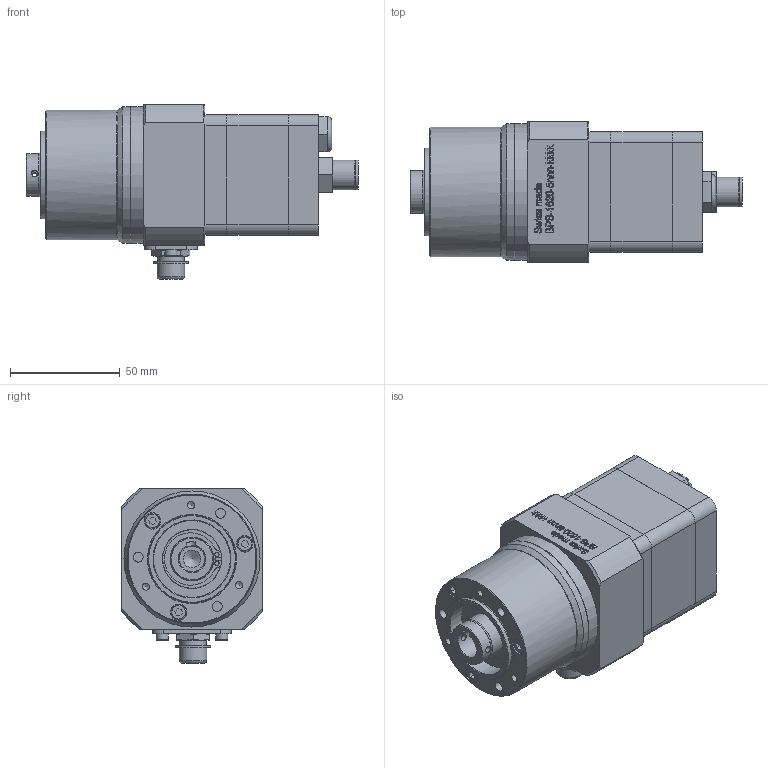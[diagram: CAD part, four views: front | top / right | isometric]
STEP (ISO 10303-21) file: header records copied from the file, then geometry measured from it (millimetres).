
FILE_DESCRIPTION(/* description */ (''),/* implementation_level */ '2;1');
FILE_NAME(/* name */ 'G:\02 CAD Dateien\02 - CAD Schrittmotoren BPS\01 - Standart Produkte\BPS 1620-23\Verkaufsunterlagen\STEP ab JULI 2017\500-16-356 Schrittmotor BPS-1620-S5-MX-0027.stp',/* time_stamp */ '2017-12-20T07:17:05+01:00',/* author */ ('RSc'),/* organization */ (''),/* preprocessor_version */ 'ST-DEVELOPER v16.1',/* originating_system */ 'Autodesk Inventor 2016',/* authorisation */ '');
FILE_SCHEMA (('AUTOMOTIVE_DESIGN { 1 0 10303 214 3 1 1 }'));
Length unit declared in the file: millimetre
Products named in the file (1): Bauteil5
Bounding box: 151.2 x 64 x 79.5 mm (x, y, z)
Volume: 385034.4 mm3; surface area: 54168.8 mm2
Topology: 12 solids, 34 shells, 873 faces, 2186 edges, 1447 vertices
Faces by surface type: plane 444, bspline 215, cylinder 135, torus 39, cone 29, sphere 11
Full cylindrical faces by diameter (mm): 1 x10, 2 x2, 3 x7, 3.242 x3, 3.3 x6, 4 x3, 4.5 x7, 5.5 x4, 7 x3, 7.5 x3, 8 x10, 8.4 x1, 8.566 x4, 10.5 x1, 11 x1, 12 x1, 12.5 x1, 12.6 x1, 13.6 x2, 16 x2, 19 x1, 19.5 x1, 20 x2, 25.325 x1, 26.657 x1, 26.857 x1, 35 x1, 35.343 x1, 36.675 x1, 38.675 x1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
Entity records: 27443 total; most frequent: CARTESIAN_POINT 7758, ORIENTED_EDGE 4016, DIRECTION 3166, EDGE_CURVE 1984, VERTEX_POINT 1379, EDGE_LOOP 1131, LINE 1120, VECTOR 1120
